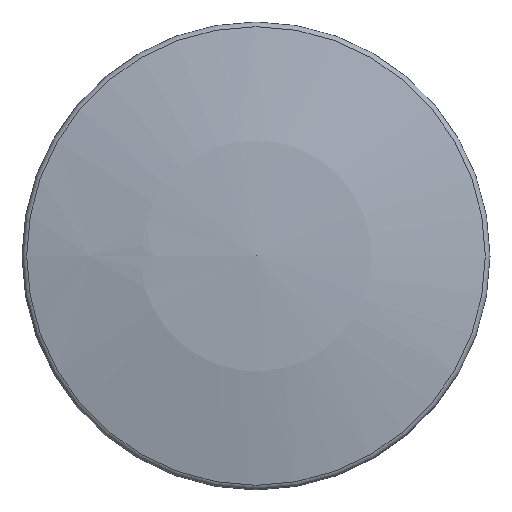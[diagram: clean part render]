
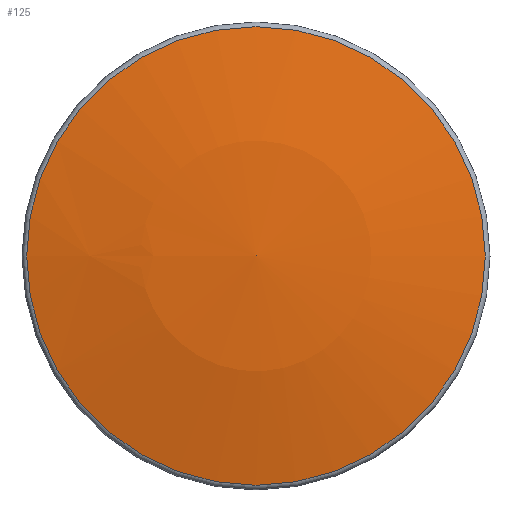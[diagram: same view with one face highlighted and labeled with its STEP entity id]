
A CAD part, top view. The second image highlights one B-rep face of the part: STEP entity #125.
In plain terms, the highlighted spherical face has radius 164.812 mm.
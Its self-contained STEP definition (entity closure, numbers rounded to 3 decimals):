
#125=ADVANCED_FACE('',(#240),#242,.T.);
#240=FACE_OUTER_BOUND('',#241,.T.);
#241=EDGE_LOOP('',(#298));
#242=SPHERICAL_SURFACE('',#243,164.812);
#243=AXIS2_PLACEMENT_3D('',#244,#245,#246);
#244=CARTESIAN_POINT('',(0.,0.,-137.812));
#245=DIRECTION('',(0.,0.,-1.));
#246=DIRECTION('',(-1.,0.,0.));
#298=ORIENTED_EDGE('',*,*,#318,.F.);
#318=EDGE_CURVE('',#341,#341,#342,.T.);
#341=VERTEX_POINT('',#398);
#342=CIRCLE('',#399,37.302);
#398=CARTESIAN_POINT('',(-37.302,0.,22.723));
#399=AXIS2_PLACEMENT_3D('',#400,#401,#402);
#400=CARTESIAN_POINT('',(0.,0.,22.723));
#401=DIRECTION('',(0.,0.,-1.));
#402=DIRECTION('',(-1.,0.,0.));
